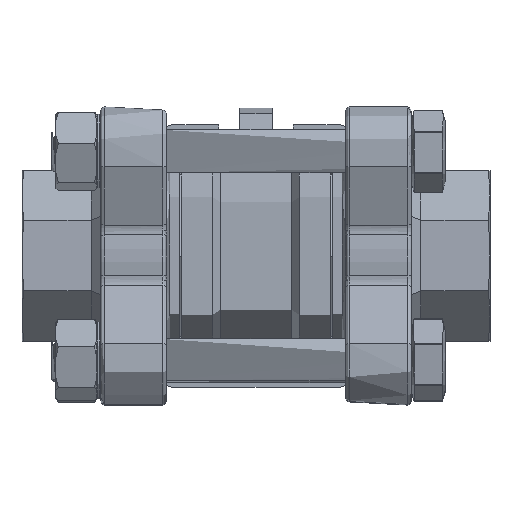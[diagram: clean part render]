
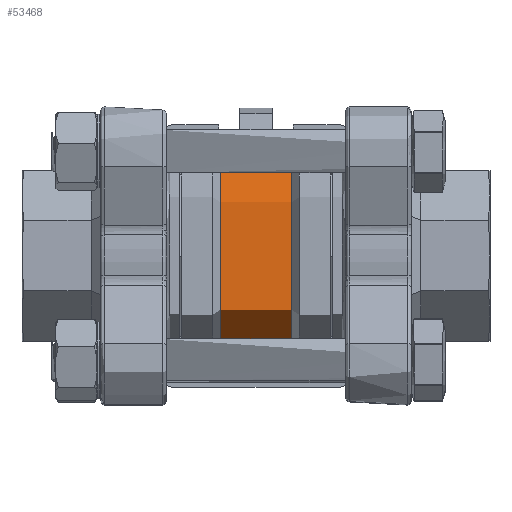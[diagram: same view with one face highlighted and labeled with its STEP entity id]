
A CAD part, front view. The second image highlights one B-rep face of the part: STEP entity #53468.
In plain terms, the highlighted cylindrical face has radius 14.541 mm (diameter 29.083 mm), a partial arc.
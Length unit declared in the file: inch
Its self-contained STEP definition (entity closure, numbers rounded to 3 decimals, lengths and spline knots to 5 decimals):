
#3229 = CIRCLE ( 'NONE', #42236, 0.5725 ) ;
#6619 = VECTOR ( 'NONE', #72459, 39.37008 ) ;
#7557 = CIRCLE ( 'NONE', #59190, 0.5725 ) ;
#7638 = ORIENTED_EDGE ( 'NONE', *, *, #74961, .F. ) ;
#12460 = LINE ( 'NONE', #87935, #28756 ) ;
#14088 = EDGE_CURVE ( 'NONE', #82984, #18907, #25107, .T. ) ;
#14648 = CARTESIAN_POINT ( 'NONE',  ( -1.05474, 0., 0. ) ) ;
#18731 = DIRECTION ( 'NONE',  ( -1., 0., 0. ) ) ;
#18907 = VERTEX_POINT ( 'NONE', #77107 ) ;
#21817 = CARTESIAN_POINT ( 'NONE',  ( 0.19, 0., -0.5725 ) ) ;
#24014 = CARTESIAN_POINT ( 'NONE',  ( -1.05474, 0., 0.5725 ) ) ;
#24316 = ORIENTED_EDGE ( 'NONE', *, *, #14088, .T. ) ;
#24714 = VERTEX_POINT ( 'NONE', #36385 ) ;
#25107 = LINE ( 'NONE', #24014, #6619 ) ;
#28756 = VECTOR ( 'NONE', #67533, 39.37008 ) ;
#33025 = ORIENTED_EDGE ( 'NONE', *, *, #39936, .T. ) ;
#35610 = DIRECTION ( 'NONE',  ( 0., 0., 1. ) ) ;
#36385 = CARTESIAN_POINT ( 'NONE',  ( -0.19, 0., -0.5725 ) ) ;
#36581 = DIRECTION ( 'NONE',  ( -1., 0., 0. ) ) ;
#39870 = CYLINDRICAL_SURFACE ( 'NONE', #70004, 0.5725 ) ;
#39936 = EDGE_CURVE ( 'NONE', #82951, #82984, #7557, .T. ) ;
#42236 = AXIS2_PLACEMENT_3D ( 'NONE', #78345, #36581, #85374 ) ;
#53468 = ADVANCED_FACE ( 'NONE', ( #58384 ), #39870, .T. ) ;
#58384 = FACE_OUTER_BOUND ( 'NONE', #78688, .T. ) ;
#58477 = EDGE_CURVE ( 'NONE', #82951, #24714, #12460, .T. ) ;
#59190 = AXIS2_PLACEMENT_3D ( 'NONE', #60451, #18731, #67474 ) ;
#60451 = CARTESIAN_POINT ( 'NONE',  ( 0.19, 0., 0. ) ) ;
#67474 = DIRECTION ( 'NONE',  ( 0., 0., 1. ) ) ;
#67533 = DIRECTION ( 'NONE',  ( -1., 0., 0. ) ) ;
#70004 = AXIS2_PLACEMENT_3D ( 'NONE', #14648, #77388, #35610 ) ;
#72459 = DIRECTION ( 'NONE',  ( -1., 0., 0. ) ) ;
#74961 = EDGE_CURVE ( 'NONE', #24714, #18907, #3229, .T. ) ;
#77107 = CARTESIAN_POINT ( 'NONE',  ( -0.19, 0., 0.5725 ) ) ;
#77388 = DIRECTION ( 'NONE',  ( -1., 0., 0. ) ) ;
#77591 = CARTESIAN_POINT ( 'NONE',  ( 0.19, 0., 0.5725 ) ) ;
#77908 = ORIENTED_EDGE ( 'NONE', *, *, #58477, .F. ) ;
#78345 = CARTESIAN_POINT ( 'NONE',  ( -0.19, 0., 0. ) ) ;
#78688 = EDGE_LOOP ( 'NONE', ( #77908, #33025, #24316, #7638 ) ) ;
#82951 = VERTEX_POINT ( 'NONE', #21817 ) ;
#82984 = VERTEX_POINT ( 'NONE', #77591 ) ;
#85374 = DIRECTION ( 'NONE',  ( 0., 0., 1. ) ) ;
#87935 = CARTESIAN_POINT ( 'NONE',  ( -1.05474, 0., -0.5725 ) ) ;
